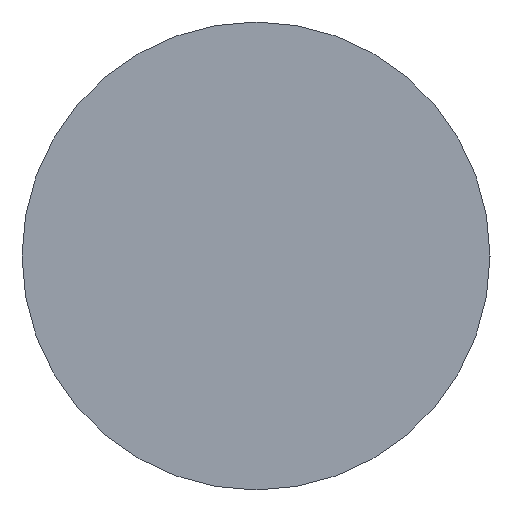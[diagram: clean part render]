
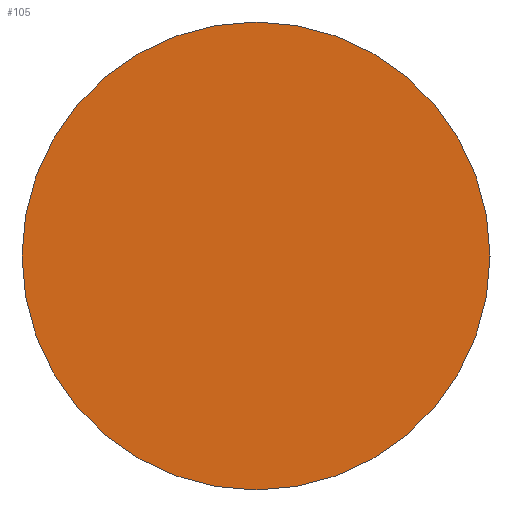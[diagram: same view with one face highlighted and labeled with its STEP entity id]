
A CAD part, left-side view. The second image highlights one B-rep face of the part: STEP entity #105.
In plain terms, the highlighted planar face has unit normal (-1, 0, 0).
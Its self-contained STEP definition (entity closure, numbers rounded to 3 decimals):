
#22 = VERTEX_POINT('',#23);
#23 = CARTESIAN_POINT('',(27.5,47.921,-271.35));
#32 = CYLINDRICAL_SURFACE('',#33,2.5);
#33 = AXIS2_PLACEMENT_3D('',#34,#35,#36);
#34 = CARTESIAN_POINT('',(27.5,50.421,-271.35));
#35 = DIRECTION('',(-1.,-0.,-0.));
#36 = DIRECTION('',(0.,-1.,0.));
#79 = EDGE_CURVE('',#22,#22,#80,.T.);
#80 = SURFACE_CURVE('',#81,(#86,#93),.PCURVE_S1.);
#81 = CIRCLE('',#82,2.5);
#82 = AXIS2_PLACEMENT_3D('',#83,#84,#85);
#83 = CARTESIAN_POINT('',(27.5,50.421,-271.35));
#84 = DIRECTION('',(1.,0.,0.));
#85 = DIRECTION('',(0.,-1.,0.));
#86 = PCURVE('',#32,#87);
#87 = DEFINITIONAL_REPRESENTATION('',(#88),#92);
#88 = LINE('',#89,#90);
#89 = CARTESIAN_POINT('',(-0.,0.));
#90 = VECTOR('',#91,1.);
#91 = DIRECTION('',(-1.,0.));
#92 = ( GEOMETRIC_REPRESENTATION_CONTEXT(2) 
PARAMETRIC_REPRESENTATION_CONTEXT() REPRESENTATION_CONTEXT('2D SPACE',''
  ) );
#93 = PCURVE('',#94,#99);
#94 = PLANE('',#95);
#95 = AXIS2_PLACEMENT_3D('',#96,#97,#98);
#96 = CARTESIAN_POINT('',(27.5,50.421,-271.35));
#97 = DIRECTION('',(1.,0.,0.));
#98 = DIRECTION('',(-0.,0.,1.));
#99 = DEFINITIONAL_REPRESENTATION('',(#100),#104);
#100 = CIRCLE('',#101,2.5);
#101 = AXIS2_PLACEMENT_2D('',#102,#103);
#102 = CARTESIAN_POINT('',(0.,0.));
#103 = DIRECTION('',(0.,1.));
#104 = ( GEOMETRIC_REPRESENTATION_CONTEXT(2) 
PARAMETRIC_REPRESENTATION_CONTEXT() REPRESENTATION_CONTEXT('2D SPACE',''
  ) );
#105 = ADVANCED_FACE('',(#106),#94,.F.);
#106 = FACE_BOUND('',#107,.F.);
#107 = EDGE_LOOP('',(#108));
#108 = ORIENTED_EDGE('',*,*,#79,.T.);
